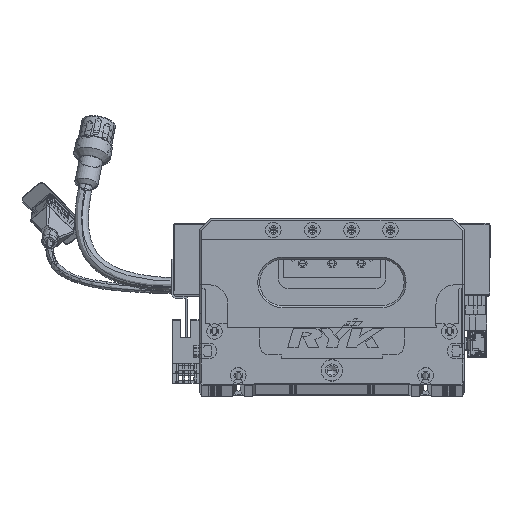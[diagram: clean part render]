
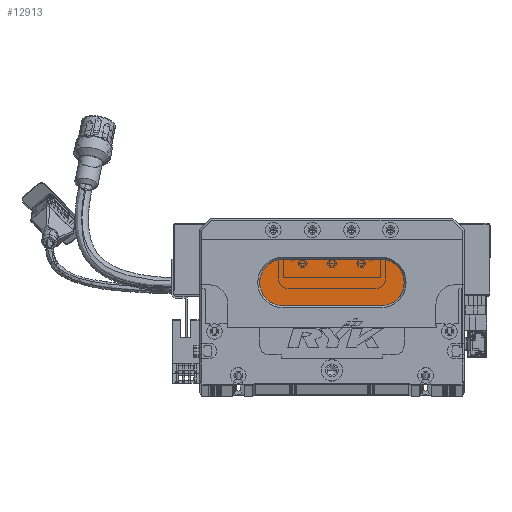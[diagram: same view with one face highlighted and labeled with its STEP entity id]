
A CAD part, top view. The second image highlights one B-rep face of the part: STEP entity #12913.
In plain terms, the highlighted planar face has unit normal (0, 0, 1) as drawn and (0, 0, -1) by its records, which use the part's own axes.
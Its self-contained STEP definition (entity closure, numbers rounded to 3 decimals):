
#6426 = EDGE_CURVE ( 'NONE', #56306, #149409, #111678, .T. ) ;
#10914 = CIRCLE ( 'NONE', #79406, 12. ) ;
#12913 = ADVANCED_FACE ( 'NONE', ( #68496 ), #91925, .T. ) ;
#14218 = CARTESIAN_POINT ( 'NONE',  ( 93., 40., 13. ) ) ;
#14982 = DIRECTION ( 'NONE',  ( 0., 0., -1. ) ) ;
#16852 = VERTEX_POINT ( 'NONE', #133652 ) ;
#20227 = EDGE_LOOP ( 'NONE', ( #121147, #98266, #30471, #110207, #113305 ) ) ;
#28239 = DIRECTION ( 'NONE',  ( 0., 0., -1. ) ) ;
#30471 = ORIENTED_EDGE ( 'NONE', *, *, #6426, .T. ) ;
#32070 = EDGE_CURVE ( 'NONE', #149409, #130917, #10914, .T. ) ;
#34891 = CARTESIAN_POINT ( 'NONE',  ( 93., 52., 13. ) ) ;
#37546 = AXIS2_PLACEMENT_3D ( 'NONE', #34891, #152543, #81688 ) ;
#37631 = DIRECTION ( 'NONE',  ( -1., 0., 0. ) ) ;
#44583 = CARTESIAN_POINT ( 'NONE',  ( 43., 64., 13. ) ) ;
#47294 = LINE ( 'NONE', #109516, #144685 ) ;
#49229 = DIRECTION ( 'NONE',  ( 0., 0., -1. ) ) ;
#51701 = CARTESIAN_POINT ( 'NONE',  ( 43., 40., 13. ) ) ;
#54992 = EDGE_CURVE ( 'NONE', #16852, #56306, #138994, .T. ) ;
#56306 = VERTEX_POINT ( 'NONE', #51701 ) ;
#64589 = DIRECTION ( 'NONE',  ( -1., 0., 0. ) ) ;
#68496 = FACE_OUTER_BOUND ( 'NONE', #20227, .T. ) ;
#76848 = CARTESIAN_POINT ( 'NONE',  ( 31., 52., 13. ) ) ;
#79406 = AXIS2_PLACEMENT_3D ( 'NONE', #87846, #28239, #100661 ) ;
#81496 = CIRCLE ( 'NONE', #86143, 12. ) ;
#81688 = DIRECTION ( 'NONE',  ( -1., 0., 0. ) ) ;
#86143 = AXIS2_PLACEMENT_3D ( 'NONE', #108038, #14982, #37631 ) ;
#86443 = DIRECTION ( 'NONE',  ( 1., 0., 0. ) ) ;
#87846 = CARTESIAN_POINT ( 'NONE',  ( 43., 52., 13. ) ) ;
#91925 = PLANE ( 'NONE',  #37546 ) ;
#98266 = ORIENTED_EDGE ( 'NONE', *, *, #54992, .T. ) ;
#98941 = EDGE_CURVE ( 'NONE', #130917, #137488, #47294, .T. ) ;
#100661 = DIRECTION ( 'NONE',  ( -1., 0., 0. ) ) ;
#107650 = CARTESIAN_POINT ( 'NONE',  ( 93., 64., 13. ) ) ;
#108038 = CARTESIAN_POINT ( 'NONE',  ( 93., 52., 13. ) ) ;
#109516 = CARTESIAN_POINT ( 'NONE',  ( 93., 64., 13. ) ) ;
#110207 = ORIENTED_EDGE ( 'NONE', *, *, #32070, .T. ) ;
#111678 = CIRCLE ( 'NONE', #137217, 12. ) ;
#113305 = ORIENTED_EDGE ( 'NONE', *, *, #98941, .T. ) ;
#119551 = CARTESIAN_POINT ( 'NONE',  ( 43., 52., 13. ) ) ;
#121147 = ORIENTED_EDGE ( 'NONE', *, *, #147065, .T. ) ;
#130917 = VERTEX_POINT ( 'NONE', #44583 ) ;
#131392 = DIRECTION ( 'NONE',  ( -1., 0., 0. ) ) ;
#133652 = CARTESIAN_POINT ( 'NONE',  ( 93., 40., 13. ) ) ;
#135327 = VECTOR ( 'NONE', #64589, 1000. ) ;
#137217 = AXIS2_PLACEMENT_3D ( 'NONE', #119551, #49229, #131392 ) ;
#137488 = VERTEX_POINT ( 'NONE', #107650 ) ;
#138994 = LINE ( 'NONE', #14218, #135327 ) ;
#144685 = VECTOR ( 'NONE', #86443, 1000. ) ;
#147065 = EDGE_CURVE ( 'NONE', #137488, #16852, #81496, .T. ) ;
#149409 = VERTEX_POINT ( 'NONE', #76848 ) ;
#152543 = DIRECTION ( 'NONE',  ( 0., 0., -1. ) ) ;
